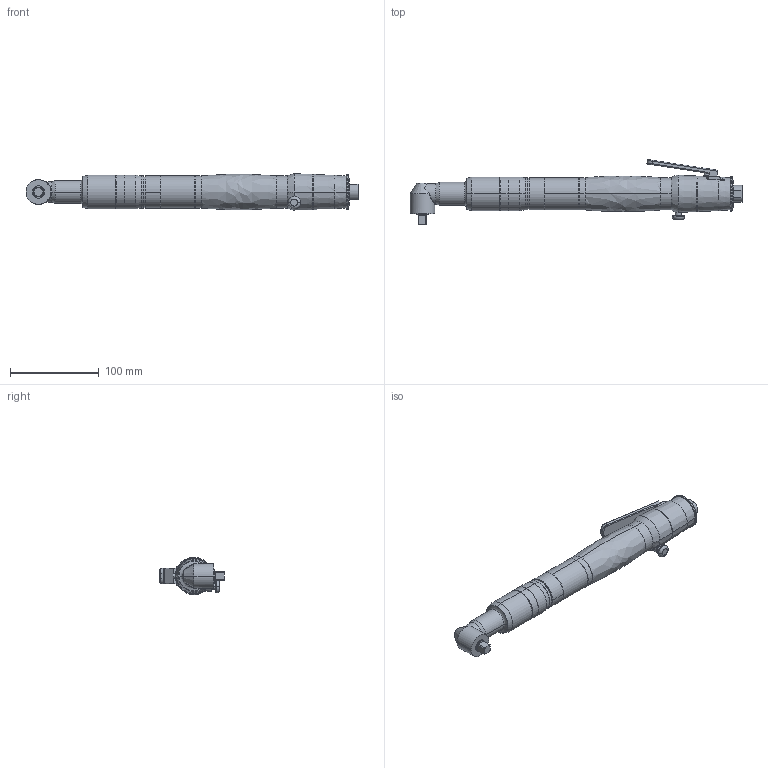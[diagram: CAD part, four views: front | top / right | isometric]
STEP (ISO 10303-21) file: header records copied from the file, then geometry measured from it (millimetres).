
FILE_DESCRIPTION((''),'2;1');
FILE_NAME('SD300-LR180-S90-A10S','2011-06-16T',('greextsd'),(''),'PRO/ENGINEER BY PARAMETRIC TECHNOLOGY CORPORATION, 2010330','PRO/ENGINEER BY PARAMETRIC TECHNOLOGY CORPORATION, 2010330','');
FILE_SCHEMA(('CONFIG_CONTROL_DESIGN'));
Length unit declared in the file: millimetre
Products named in the file (1): SD300-LR180-S90-A10S
Bounding box: 375 x 73.12 x 41.97 mm (x, y, z)
Volume: 392608.7 mm3; surface area: 50699.5 mm2
Topology: 1 solids, 1 shells, 188 faces, 420 edges, 247 vertices
Faces by surface type: cylinder 71, plane 41, cone 34, bspline 24, torus 8, revolution 6, sphere 4
Entity records: 6453 total; most frequent: CARTESIAN_POINT 2406, ORIENTED_EDGE 840, DIRECTION 820, EDGE_CURVE 420, AXIS2_PLACEMENT_3D 330, VERTEX_POINT 247, EDGE_LOOP 203, FACE_OUTER_BOUND 188
